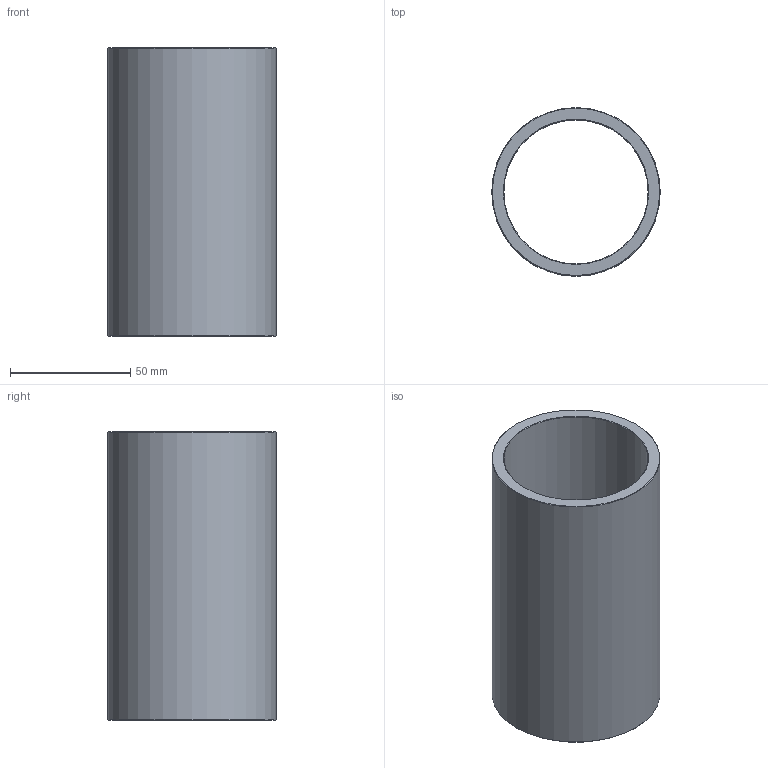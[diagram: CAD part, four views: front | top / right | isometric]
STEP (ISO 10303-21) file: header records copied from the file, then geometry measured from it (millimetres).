
FILE_DESCRIPTION(('STEP AP203'),'1');
FILE_NAME('C:/Users/Rodrigo/Desktop/GA5.060.120-1.step','2016-11-08T12:43:59',(' '),(' '),'Spatial InterOp 3D',' ',' ');
FILE_SCHEMA(('CONFIG_CONTROL_DESIGN'));
Length unit declared in the file: millimetre
Products named in the file (1): 1
Bounding box: 70 x 70 x 120 mm (x, y, z)
Volume: 122505.8 mm3; surface area: 50955.2 mm2
Topology: 1 solids, 1 shells, 8 faces, 14 edges, 8 vertices
Faces by surface type: cone 4, cylinder 2, plane 2
Full cylindrical faces by diameter (mm): 60 x1, 70 x1
Entity records: 212 total; most frequent: DIRECTION 34, CARTESIAN_POINT 25, AXIS2_PLACEMENT_3D 17, EDGE_LOOP 16, ORIENTED_EDGE 16, FACE_OUTER_BOUND 10, ADVANCED_FACE 8, EDGE_CURVE 8
